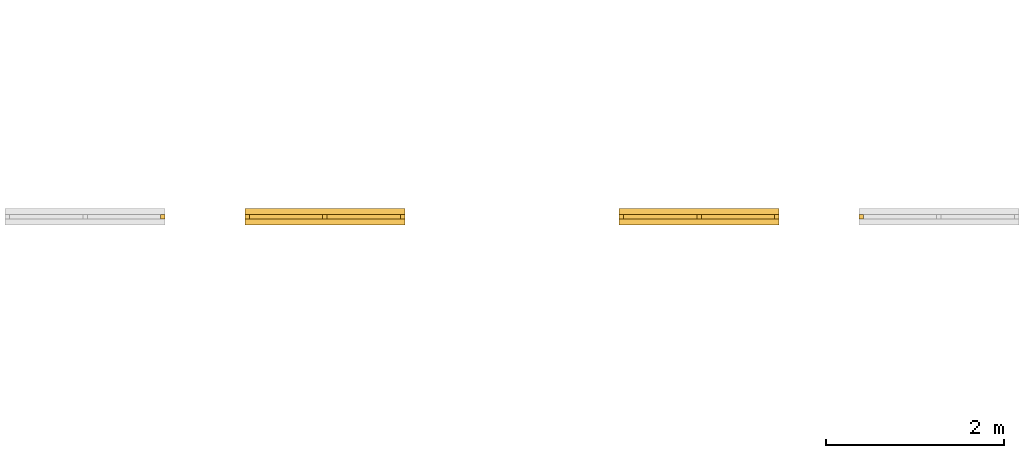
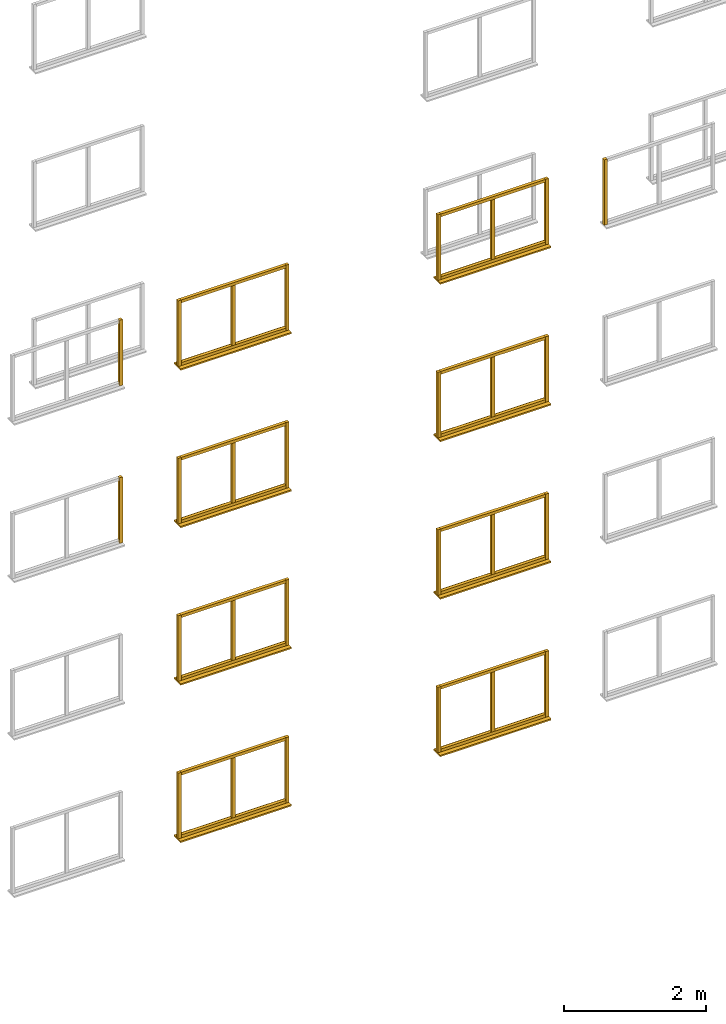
# Not in any storey, part 5 of 22: 51 windows.
"""IFC2X3 model written with IfcOpenShell, lengths in metres."""

from ifc_helpers import new_model, si_unit, frame, origin, place, context, project, faceted_brep, element, save


model = new_model("IFC2X3")

# Units and contexts
model_context = context("Model", 3, precision=1e-06, world=origin())
ifc_project = project(units=[si_unit("LENGTHUNIT", "METRE"), si_unit("PLANEANGLEUNIT", "RADIAN")], contexts=[model_context])

# Windows
placement = place(None, origin())
for number, where, z_axis, x_axis, name in (
    (1, (21.05499999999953, -0.09833720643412, 1.025), (0.0, 0.0, 1.0), (1.0, 0.0, 0.0), "leftFrame"),
    (2, (23.75499999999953, -0.09833720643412, 9.125000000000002), (0.0, 0.0, 1.0), (1.0, 0.0, 0.0), "leftFrame"),
):
    element("IfcWindow", number, at=place(placement, frame(where, z_axis=z_axis, x_axis=x_axis)), Name=name, context=model_context, shape_type="Brep", body=[
        faceted_brep([(0.0, 0.05, 0.0), (0.05, 0.05, 0.0), (0.05, 0.0, 0.0), (0.0, 0.0, 0.0), (0.05, 0.0, 1.125), (0.05, 0.05, 1.125), (0.0, 0.05, 1.125), (0.0, 0.0, 1.125), (0.0, 0.05, 0.0), (0.0, 0.0, 0.0), (0.0, 0.0, 1.125), (0.0, 0.05, 1.125), (0.05, 0.05, 0.0), (0.0, 0.05, 0.0), (0.0, 0.05, 1.125), (0.05, 0.05, 1.125), (0.05, 0.0, 0.0), (0.05, 0.05, 0.0), (0.05, 0.05, 1.125), (0.05, 0.0, 1.125), (0.0, 0.0, 0.0), (0.05, 0.0, 0.0), (0.05, 0.0, 1.125), (0.0, 0.0, 1.125)], [[[0, 1, 2, 3]], [[4, 5, 6, 7]], [[8, 9, 10, 11]], [[12, 13, 14, 15]], [[16, 17, 18, 19]], [[20, 21, 22, 23]]]),
    ])
window_1_placement = place(placement, frame((21.10499999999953, -0.09833720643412, 10.200000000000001), z_axis=(0.0, 0.0, 1.0), x_axis=(1.0, 0.0, 0.0)))
element("IfcWindow", 3, at=window_1_placement, Name="topFrame", context=model_context, shape_type="Brep", body=[
    faceted_brep([(0.0, 0.05, 0.0), (1.7, 0.05, 0.0), (1.7, 0.0, 0.0), (0.0, 0.0, 0.0), (1.7, 0.0, 0.05), (1.7, 0.05, 0.05), (0.0, 0.05, 0.05), (0.0, 0.0, 0.05), (0.0, 0.05, 0.0), (0.0, 0.0, 0.0), (0.0, 0.0, 0.05), (0.0, 0.05, 0.05), (1.7, 0.05, 0.0), (0.0, 0.05, 0.0), (0.0, 0.05, 0.05), (1.7, 0.05, 0.05), (1.7, 0.0, 0.0), (1.7, 0.05, 0.0), (1.7, 0.05, 0.05), (1.7, 0.0, 0.05), (0.0, 0.0, 0.0), (1.7, 0.0, 0.0), (1.7, 0.0, 0.05), (0.0, 0.0, 0.05)], [[[0, 1, 2, 3]], [[4, 5, 6, 7]], [[8, 9, 10, 11]], [[12, 13, 14, 15]], [[16, 17, 18, 19]], [[20, 21, 22, 23]]]),
])
window_2_placement = place(placement, frame((21.05499999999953, -0.09833720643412, 3.725000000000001), z_axis=(0.0, 0.0, 1.0), x_axis=(1.0, 0.0, 0.0)))
element("IfcWindow", 4, at=window_2_placement, Name="leftFrame", context=model_context, shape_type="Brep", body=[
    faceted_brep([(0.0, 0.05, 0.0), (0.05, 0.05, 0.0), (0.05, 0.0, 0.0), (0.0, 0.0, 0.0), (0.05, 0.0, 1.125), (0.05, 0.05, 1.125), (0.0, 0.05, 1.125), (0.0, 0.0, 1.125), (0.0, 0.05, 0.0), (0.0, 0.0, 0.0), (0.0, 0.0, 1.125), (0.0, 0.05, 1.125), (0.05, 0.05, 0.0), (0.0, 0.05, 0.0), (0.0, 0.05, 1.125), (0.05, 0.05, 1.125), (0.05, 0.0, 0.0), (0.05, 0.05, 0.0), (0.05, 0.05, 1.125), (0.05, 0.0, 1.125), (0.0, 0.0, 0.0), (0.05, 0.0, 0.0), (0.05, 0.0, 1.125), (0.0, 0.0, 1.125)], [[[0, 1, 2, 3]], [[4, 5, 6, 7]], [[8, 9, 10, 11]], [[12, 13, 14, 15]], [[16, 17, 18, 19]], [[20, 21, 22, 23]]]),
])
window_3_placement = place(placement, frame((21.92999999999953, -0.09833720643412, 9.175), z_axis=(0.0, 0.0, 1.0), x_axis=(1.0, 0.0, 0.0)))
element("IfcWindow", 5, at=window_3_placement, Name="verticalBar", context=model_context, shape_type="Brep", body=[
    faceted_brep([(0.0, 0.05, 0.0), (0.05, 0.05, 0.0), (0.05, 0.0, 0.0), (0.0, 0.0, 0.0), (0.05, 0.0, 1.025), (0.05, 0.05, 1.025), (0.0, 0.05, 1.025), (0.0, 0.0, 1.025), (0.0, 0.05, 0.0), (0.0, 0.0, 0.0), (0.0, 0.0, 1.025), (0.0, 0.05, 1.025), (0.05, 0.05, 0.0), (0.0, 0.05, 0.0), (0.0, 0.05, 1.025), (0.05, 0.05, 1.025), (0.05, 0.0, 0.0), (0.05, 0.05, 0.0), (0.05, 0.05, 1.025), (0.05, 0.0, 1.025), (0.0, 0.0, 0.0), (0.05, 0.0, 0.0), (0.05, 0.0, 1.025), (0.0, 0.0, 1.025)], [[[0, 1, 2, 3]], [[4, 5, 6, 7]], [[8, 9, 10, 11]], [[12, 13, 14, 15]], [[16, 17, 18, 19]], [[20, 21, 22, 23]]]),
])
window_4_placement = place(placement, frame((21.05499999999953, -0.16683720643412, 9.100000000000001), z_axis=(0.0, 0.0, 1.0), x_axis=(1.0, 0.0, 0.0)))
element("IfcWindow", 6, at=window_4_placement, Name="windowSill", context=model_context, shape_type="Brep", body=[
    faceted_brep([(0.0, 0.187, 0.0), (1.8, 0.187, 0.0), (1.8, 0.0, 0.0), (0.0, 0.0, 0.0), (1.8, 0.0, 0.025), (1.8, 0.187, 0.025), (0.0, 0.187, 0.025), (0.0, 0.0, 0.025), (0.0, 0.187, 0.0), (0.0, 0.0, 0.0), (0.0, 0.0, 0.025), (0.0, 0.187, 0.025), (1.8, 0.187, 0.0), (0.0, 0.187, 0.0), (0.0, 0.187, 0.025), (1.8, 0.187, 0.025), (1.8, 0.0, 0.0), (1.8, 0.187, 0.0), (1.8, 0.187, 0.025), (1.8, 0.0, 0.025), (0.0, 0.0, 0.0), (1.8, 0.0, 0.0), (1.8, 0.0, 0.025), (0.0, 0.0, 0.025)], [[[0, 1, 2, 3]], [[4, 5, 6, 7]], [[8, 9, 10, 11]], [[12, 13, 14, 15]], [[16, 17, 18, 19]], [[20, 21, 22, 23]]]),
])
window_5_placement = place(placement, frame((21.10499999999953, -0.09833720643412, 3.725000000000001), z_axis=(0.0, 0.0, 1.0), x_axis=(1.0, 0.0, 0.0)))
element("IfcWindow", 7, at=window_5_placement, Name="bottomFrame", context=model_context, shape_type="Brep", body=[
    faceted_brep([(0.0, 0.05, 0.0), (1.7, 0.05, 0.0), (1.7, 0.0, 0.0), (0.0, 0.0, 0.0), (1.7, 0.0, 0.05), (1.7, 0.05, 0.05), (0.0, 0.05, 0.05), (0.0, 0.0, 0.05), (0.0, 0.05, 0.0), (0.0, 0.0, 0.0), (0.0, 0.0, 0.05), (0.0, 0.05, 0.05), (1.7, 0.05, 0.0), (0.0, 0.05, 0.0), (0.0, 0.05, 0.05), (1.7, 0.05, 0.05), (1.7, 0.0, 0.0), (1.7, 0.05, 0.0), (1.7, 0.05, 0.05), (1.7, 0.0, 0.05), (0.0, 0.0, 0.0), (1.7, 0.0, 0.0), (1.7, 0.0, 0.05), (0.0, 0.0, 0.05)], [[[0, 1, 2, 3]], [[4, 5, 6, 7]], [[8, 9, 10, 11]], [[12, 13, 14, 15]], [[16, 17, 18, 19]], [[20, 21, 22, 23]]]),
])
window_6_placement = place(placement, frame((21.92999999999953, -0.09833720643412, 3.775000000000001), z_axis=(0.0, 0.0, 1.0), x_axis=(1.0, 0.0, 0.0)))
element("IfcWindow", 8, at=window_6_placement, Name="verticalBar", context=model_context, shape_type="Brep", body=[
    faceted_brep([(0.0, 0.05, 0.0), (0.05, 0.05, 0.0), (0.05, 0.0, 0.0), (0.0, 0.0, 0.0), (0.05, 0.0, 1.025), (0.05, 0.05, 1.025), (0.0, 0.05, 1.025), (0.0, 0.0, 1.025), (0.0, 0.05, 0.0), (0.0, 0.0, 0.0), (0.0, 0.0, 1.025), (0.0, 0.05, 1.025), (0.05, 0.05, 0.0), (0.0, 0.05, 0.0), (0.0, 0.05, 1.025), (0.05, 0.05, 1.025), (0.05, 0.0, 0.0), (0.05, 0.05, 0.0), (0.05, 0.05, 1.025), (0.05, 0.0, 1.025), (0.0, 0.0, 0.0), (0.05, 0.0, 0.0), (0.05, 0.0, 1.025), (0.0, 0.0, 1.025)], [[[0, 1, 2, 3]], [[4, 5, 6, 7]], [[8, 9, 10, 11]], [[12, 13, 14, 15]], [[16, 17, 18, 19]], [[20, 21, 22, 23]]]),
])
window_7_placement = place(placement, frame((22.80499999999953, -0.09833720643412, 3.725000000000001), z_axis=(0.0, 0.0, 1.0), x_axis=(1.0, 0.0, 0.0)))
element("IfcWindow", 9, at=window_7_placement, Name="rightFrame", context=model_context, shape_type="Brep", body=[
    faceted_brep([(0.0, 0.05, 0.0), (0.05, 0.05, 0.0), (0.05, 0.0, 0.0), (0.0, 0.0, 0.0), (0.05, 0.0, 1.125), (0.05, 0.05, 1.125), (0.0, 0.05, 1.125), (0.0, 0.0, 1.125), (0.0, 0.05, 0.0), (0.0, 0.0, 0.0), (0.0, 0.0, 1.125), (0.0, 0.05, 1.125), (0.05, 0.05, 0.0), (0.0, 0.05, 0.0), (0.0, 0.05, 1.125), (0.05, 0.05, 1.125), (0.05, 0.0, 0.0), (0.05, 0.05, 0.0), (0.05, 0.05, 1.125), (0.05, 0.0, 1.125), (0.0, 0.0, 0.0), (0.05, 0.0, 0.0), (0.05, 0.0, 1.125), (0.0, 0.0, 1.125)], [[[0, 1, 2, 3]], [[4, 5, 6, 7]], [[8, 9, 10, 11]], [[12, 13, 14, 15]], [[16, 17, 18, 19]], [[20, 21, 22, 23]]]),
])
window_8_placement = place(placement, frame((21.10499999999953, -0.09833720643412, 4.800000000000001), z_axis=(0.0, 0.0, 1.0), x_axis=(1.0, 0.0, 0.0)))
element("IfcWindow", 10, at=window_8_placement, Name="topFrame", context=model_context, shape_type="Brep", body=[
    faceted_brep([(0.0, 0.05, 0.0), (1.7, 0.05, 0.0), (1.7, 0.0, 0.0), (0.0, 0.0, 0.0), (1.7, 0.0, 0.05), (1.7, 0.05, 0.05), (0.0, 0.05, 0.05), (0.0, 0.0, 0.05), (0.0, 0.05, 0.0), (0.0, 0.0, 0.0), (0.0, 0.0, 0.05), (0.0, 0.05, 0.05), (1.7, 0.05, 0.0), (0.0, 0.05, 0.0), (0.0, 0.05, 0.05), (1.7, 0.05, 0.05), (1.7, 0.0, 0.0), (1.7, 0.05, 0.0), (1.7, 0.05, 0.05), (1.7, 0.0, 0.05), (0.0, 0.0, 0.0), (1.7, 0.0, 0.0), (1.7, 0.0, 0.05), (0.0, 0.0, 0.05)], [[[0, 1, 2, 3]], [[4, 5, 6, 7]], [[8, 9, 10, 11]], [[12, 13, 14, 15]], [[16, 17, 18, 19]], [[20, 21, 22, 23]]]),
])
for number, where, z_axis, x_axis, name in (
    (11, (21.05499999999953, -0.16683720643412, 3.700000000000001), (0.0, 0.0, 1.0), (1.0, 0.0, 0.0), "windowSill"),
    (12, (21.05499999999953, -0.16683720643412, 1.0), (0.0, 0.0, 1.0), (1.0, 0.0, 0.0), "windowSill"),
):
    element("IfcWindow", number, at=place(placement, frame(where, z_axis=z_axis, x_axis=x_axis)), Name=name, context=model_context, shape_type="Brep", body=[
        faceted_brep([(0.0, 0.187, 0.0), (1.8, 0.187, 0.0), (1.8, 0.0, 0.0), (0.0, 0.0, 0.0), (1.8, 0.0, 0.025), (1.8, 0.187, 0.025), (0.0, 0.187, 0.025), (0.0, 0.0, 0.025), (0.0, 0.187, 0.0), (0.0, 0.0, 0.0), (0.0, 0.0, 0.025), (0.0, 0.187, 0.025), (1.8, 0.187, 0.0), (0.0, 0.187, 0.0), (0.0, 0.187, 0.025), (1.8, 0.187, 0.025), (1.8, 0.0, 0.0), (1.8, 0.187, 0.0), (1.8, 0.187, 0.025), (1.8, 0.0, 0.025), (0.0, 0.0, 0.0), (1.8, 0.0, 0.0), (1.8, 0.0, 0.025), (0.0, 0.0, 0.025)], [[[0, 1, 2, 3]], [[4, 5, 6, 7]], [[8, 9, 10, 11]], [[12, 13, 14, 15]], [[16, 17, 18, 19]], [[20, 21, 22, 23]]]),
    ])
window_9_placement = place(placement, frame((22.80499999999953, -0.09833720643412, 1.025), z_axis=(0.0, 0.0, 1.0), x_axis=(1.0, 0.0, 0.0)))
element("IfcWindow", 13, at=window_9_placement, Name="rightFrame", context=model_context, shape_type="Brep", body=[
    faceted_brep([(0.0, 0.05, 0.0), (0.05, 0.05, 0.0), (0.05, 0.0, 0.0), (0.0, 0.0, 0.0), (0.05, 0.0, 1.125), (0.05, 0.05, 1.125), (0.0, 0.05, 1.125), (0.0, 0.0, 1.125), (0.0, 0.05, 0.0), (0.0, 0.0, 0.0), (0.0, 0.0, 1.125), (0.0, 0.05, 1.125), (0.05, 0.05, 0.0), (0.0, 0.05, 0.0), (0.0, 0.05, 1.125), (0.05, 0.05, 1.125), (0.05, 0.0, 0.0), (0.05, 0.05, 0.0), (0.05, 0.05, 1.125), (0.05, 0.0, 1.125), (0.0, 0.0, 0.0), (0.05, 0.0, 0.0), (0.05, 0.0, 1.125), (0.0, 0.0, 1.125)], [[[0, 1, 2, 3]], [[4, 5, 6, 7]], [[8, 9, 10, 11]], [[12, 13, 14, 15]], [[16, 17, 18, 19]], [[20, 21, 22, 23]]]),
])
window_10_placement = place(placement, frame((21.92999999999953, -0.09833720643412, 1.075), z_axis=(0.0, 0.0, 1.0), x_axis=(1.0, 0.0, 0.0)))
element("IfcWindow", 14, at=window_10_placement, Name="verticalBar", context=model_context, shape_type="Brep", body=[
    faceted_brep([(0.0, 0.05, 0.0), (0.05, 0.05, 0.0), (0.05, 0.0, 0.0), (0.0, 0.0, 0.0), (0.05, 0.0, 1.025), (0.05, 0.05, 1.025), (0.0, 0.05, 1.025), (0.0, 0.0, 1.025), (0.0, 0.05, 0.0), (0.0, 0.0, 0.0), (0.0, 0.0, 1.025), (0.0, 0.05, 1.025), (0.05, 0.05, 0.0), (0.0, 0.05, 0.0), (0.0, 0.05, 1.025), (0.05, 0.05, 1.025), (0.05, 0.0, 0.0), (0.05, 0.05, 0.0), (0.05, 0.05, 1.025), (0.05, 0.0, 1.025), (0.0, 0.0, 0.0), (0.05, 0.0, 0.0), (0.05, 0.0, 1.025), (0.0, 0.0, 1.025)], [[[0, 1, 2, 3]], [[4, 5, 6, 7]], [[8, 9, 10, 11]], [[12, 13, 14, 15]], [[16, 17, 18, 19]], [[20, 21, 22, 23]]]),
])
for number, where, z_axis, x_axis, name in (
    (15, (21.10499999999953, -0.09833720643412, 2.100000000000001), (0.0, 0.0, 1.0), (1.0, 0.0, 0.0), "topFrame"),
    (16, (21.10499999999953, -0.09833720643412, 1.025), (0.0, 0.0, 1.0), (1.0, 0.0, 0.0), "bottomFrame"),
    (17, (16.894999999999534, -0.098337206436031, 1.025), (0.0, 0.0, 1.0), (1.0, 0.0, 0.0), "bottomFrame"),
    (18, (16.894999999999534, -0.098337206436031, 2.1), (0.0, 0.0, 1.0), (1.0, 0.0, 0.0), "topFrame"),
):
    element("IfcWindow", number, at=place(placement, frame(where, z_axis=z_axis, x_axis=x_axis)), Name=name, context=model_context, shape_type="Brep", body=[
        faceted_brep([(0.0, 0.05, 0.0), (1.7, 0.05, 0.0), (1.7, 0.0, 0.0), (0.0, 0.0, 0.0), (1.7, 0.0, 0.05), (1.7, 0.05, 0.05), (0.0, 0.05, 0.05), (0.0, 0.0, 0.05), (0.0, 0.05, 0.0), (0.0, 0.0, 0.0), (0.0, 0.0, 0.05), (0.0, 0.05, 0.05), (1.7, 0.05, 0.0), (0.0, 0.05, 0.0), (0.0, 0.05, 0.05), (1.7, 0.05, 0.05), (1.7, 0.0, 0.0), (1.7, 0.05, 0.0), (1.7, 0.05, 0.05), (1.7, 0.0, 0.05), (0.0, 0.0, 0.0), (1.7, 0.0, 0.0), (1.7, 0.0, 0.05), (0.0, 0.0, 0.05)], [[[0, 1, 2, 3]], [[4, 5, 6, 7]], [[8, 9, 10, 11]], [[12, 13, 14, 15]], [[16, 17, 18, 19]], [[20, 21, 22, 23]]]),
    ])
for number, where, z_axis, x_axis, name in (
    (19, (16.844999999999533, -0.098337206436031, 1.025), (0.0, 0.0, 1.0), (1.0, 0.0, 0.0), "leftFrame"),
    (20, (18.594999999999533, -0.098337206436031, 1.025), (0.0, 0.0, 1.0), (1.0, 0.0, 0.0), "rightFrame"),
):
    element("IfcWindow", number, at=place(placement, frame(where, z_axis=z_axis, x_axis=x_axis)), Name=name, context=model_context, shape_type="Brep", body=[
        faceted_brep([(0.0, 0.05, 0.0), (0.05, 0.05, 0.0), (0.05, 0.0, 0.0), (0.0, 0.0, 0.0), (0.05, 0.0, 1.125), (0.05, 0.05, 1.125), (0.0, 0.05, 1.125), (0.0, 0.0, 1.125), (0.0, 0.05, 0.0), (0.0, 0.0, 0.0), (0.0, 0.0, 1.125), (0.0, 0.05, 1.125), (0.05, 0.05, 0.0), (0.0, 0.05, 0.0), (0.0, 0.05, 1.125), (0.05, 0.05, 1.125), (0.05, 0.0, 0.0), (0.05, 0.05, 0.0), (0.05, 0.05, 1.125), (0.05, 0.0, 1.125), (0.0, 0.0, 0.0), (0.05, 0.0, 0.0), (0.05, 0.0, 1.125), (0.0, 0.0, 1.125)], [[[0, 1, 2, 3]], [[4, 5, 6, 7]], [[8, 9, 10, 11]], [[12, 13, 14, 15]], [[16, 17, 18, 19]], [[20, 21, 22, 23]]]),
    ])
window_11_placement = place(placement, frame((16.844999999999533, -0.166837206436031, 1.0), z_axis=(0.0, 0.0, 1.0), x_axis=(1.0, 0.0, 0.0)))
element("IfcWindow", 21, at=window_11_placement, Name="windowSill", context=model_context, shape_type="Brep", body=[
    faceted_brep([(0.0, 0.187, 0.0), (1.8, 0.187, 0.0), (1.8, 0.0, 0.0), (0.0, 0.0, 0.0), (1.8, 0.0, 0.025), (1.8, 0.187, 0.025), (0.0, 0.187, 0.025), (0.0, 0.0, 0.025), (0.0, 0.187, 0.0), (0.0, 0.0, 0.0), (0.0, 0.0, 0.025), (0.0, 0.187, 0.025), (1.8, 0.187, 0.0), (0.0, 0.187, 0.0), (0.0, 0.187, 0.025), (1.8, 0.187, 0.025), (1.8, 0.0, 0.0), (1.8, 0.187, 0.0), (1.8, 0.187, 0.025), (1.8, 0.0, 0.025), (0.0, 0.0, 0.0), (1.8, 0.0, 0.0), (1.8, 0.0, 0.025), (0.0, 0.0, 0.025)], [[[0, 1, 2, 3]], [[4, 5, 6, 7]], [[8, 9, 10, 11]], [[12, 13, 14, 15]], [[16, 17, 18, 19]], [[20, 21, 22, 23]]]),
])
window_12_placement = place(placement, frame((17.719999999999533, -0.098337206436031, 1.075), z_axis=(0.0, 0.0, 1.0), x_axis=(1.0, 0.0, 0.0)))
element("IfcWindow", 22, at=window_12_placement, Name="verticalBar", context=model_context, shape_type="Brep", body=[
    faceted_brep([(0.0, 0.05, 0.0), (0.05, 0.05, 0.0), (0.05, 0.0, 0.0), (0.0, 0.0, 0.0), (0.05, 0.0, 1.025), (0.05, 0.05, 1.025), (0.0, 0.05, 1.025), (0.0, 0.0, 1.025), (0.0, 0.05, 0.0), (0.0, 0.0, 0.0), (0.0, 0.0, 1.025), (0.0, 0.05, 1.025), (0.05, 0.05, 0.0), (0.0, 0.05, 0.0), (0.0, 0.05, 1.025), (0.05, 0.05, 1.025), (0.05, 0.0, 0.0), (0.05, 0.05, 0.0), (0.05, 0.05, 1.025), (0.05, 0.0, 1.025), (0.0, 0.0, 0.0), (0.05, 0.0, 0.0), (0.05, 0.0, 1.025), (0.0, 0.0, 1.025)], [[[0, 1, 2, 3]], [[4, 5, 6, 7]], [[8, 9, 10, 11]], [[12, 13, 14, 15]], [[16, 17, 18, 19]], [[20, 21, 22, 23]]]),
])
for number, where, z_axis, x_axis, name in (
    (23, (16.894999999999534, -0.098337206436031, 3.725), (0.0, 0.0, 1.0), (1.0, 0.0, 0.0), "bottomFrame"),
    (24, (16.894999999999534, -0.098337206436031, 4.8), (0.0, 0.0, 1.0), (1.0, 0.0, 0.0), "topFrame"),
):
    element("IfcWindow", number, at=place(placement, frame(where, z_axis=z_axis, x_axis=x_axis)), Name=name, context=model_context, shape_type="Brep", body=[
        faceted_brep([(0.0, 0.05, 0.0), (1.7, 0.05, 0.0), (1.7, 0.0, 0.0), (0.0, 0.0, 0.0), (1.7, 0.0, 0.05), (1.7, 0.05, 0.05), (0.0, 0.05, 0.05), (0.0, 0.0, 0.05), (0.0, 0.05, 0.0), (0.0, 0.0, 0.0), (0.0, 0.0, 0.05), (0.0, 0.05, 0.05), (1.7, 0.05, 0.0), (0.0, 0.05, 0.0), (0.0, 0.05, 0.05), (1.7, 0.05, 0.05), (1.7, 0.0, 0.0), (1.7, 0.05, 0.0), (1.7, 0.05, 0.05), (1.7, 0.0, 0.05), (0.0, 0.0, 0.0), (1.7, 0.0, 0.0), (1.7, 0.0, 0.05), (0.0, 0.0, 0.05)], [[[0, 1, 2, 3]], [[4, 5, 6, 7]], [[8, 9, 10, 11]], [[12, 13, 14, 15]], [[16, 17, 18, 19]], [[20, 21, 22, 23]]]),
    ])
for number, where, z_axis, x_axis, name in (
    (25, (16.844999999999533, -0.098337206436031, 3.725), (0.0, 0.0, 1.0), (1.0, 0.0, 0.0), "leftFrame"),
    (26, (18.594999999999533, -0.098337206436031, 3.725), (0.0, 0.0, 1.0), (1.0, 0.0, 0.0), "rightFrame"),
):
    element("IfcWindow", number, at=place(placement, frame(where, z_axis=z_axis, x_axis=x_axis)), Name=name, context=model_context, shape_type="Brep", body=[
        faceted_brep([(0.0, 0.05, 0.0), (0.05, 0.05, 0.0), (0.05, 0.0, 0.0), (0.0, 0.0, 0.0), (0.05, 0.0, 1.125), (0.05, 0.05, 1.125), (0.0, 0.05, 1.125), (0.0, 0.0, 1.125), (0.0, 0.05, 0.0), (0.0, 0.0, 0.0), (0.0, 0.0, 1.125), (0.0, 0.05, 1.125), (0.05, 0.05, 0.0), (0.0, 0.05, 0.0), (0.0, 0.05, 1.125), (0.05, 0.05, 1.125), (0.05, 0.0, 0.0), (0.05, 0.05, 0.0), (0.05, 0.05, 1.125), (0.05, 0.0, 1.125), (0.0, 0.0, 0.0), (0.05, 0.0, 0.0), (0.05, 0.0, 1.125), (0.0, 0.0, 1.125)], [[[0, 1, 2, 3]], [[4, 5, 6, 7]], [[8, 9, 10, 11]], [[12, 13, 14, 15]], [[16, 17, 18, 19]], [[20, 21, 22, 23]]]),
    ])
window_13_placement = place(placement, frame((16.844999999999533, -0.166837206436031, 3.7), z_axis=(0.0, 0.0, 1.0), x_axis=(1.0, 0.0, 0.0)))
element("IfcWindow", 27, at=window_13_placement, Name="windowSill", context=model_context, shape_type="Brep", body=[
    faceted_brep([(0.0, 0.187, 0.0), (1.8, 0.187, 0.0), (1.8, 0.0, 0.0), (0.0, 0.0, 0.0), (1.8, 0.0, 0.025), (1.8, 0.187, 0.025), (0.0, 0.187, 0.025), (0.0, 0.0, 0.025), (0.0, 0.187, 0.0), (0.0, 0.0, 0.0), (0.0, 0.0, 0.025), (0.0, 0.187, 0.025), (1.8, 0.187, 0.0), (0.0, 0.187, 0.0), (0.0, 0.187, 0.025), (1.8, 0.187, 0.025), (1.8, 0.0, 0.0), (1.8, 0.187, 0.0), (1.8, 0.187, 0.025), (1.8, 0.0, 0.025), (0.0, 0.0, 0.0), (1.8, 0.0, 0.0), (1.8, 0.0, 0.025), (0.0, 0.0, 0.025)], [[[0, 1, 2, 3]], [[4, 5, 6, 7]], [[8, 9, 10, 11]], [[12, 13, 14, 15]], [[16, 17, 18, 19]], [[20, 21, 22, 23]]]),
])
window_14_placement = place(placement, frame((16.844999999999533, -0.098337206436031, 6.425000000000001), z_axis=(0.0, 0.0, 1.0), x_axis=(1.0, 0.0, 0.0)))
element("IfcWindow", 28, at=window_14_placement, Name="leftFrame", context=model_context, shape_type="Brep", body=[
    faceted_brep([(0.0, 0.05, 0.0), (0.05, 0.05, 0.0), (0.05, 0.0, 0.0), (0.0, 0.0, 0.0), (0.05, 0.0, 1.125), (0.05, 0.05, 1.125), (0.0, 0.05, 1.125), (0.0, 0.0, 1.125), (0.0, 0.05, 0.0), (0.0, 0.0, 0.0), (0.0, 0.0, 1.125), (0.0, 0.05, 1.125), (0.05, 0.05, 0.0), (0.0, 0.05, 0.0), (0.0, 0.05, 1.125), (0.05, 0.05, 1.125), (0.05, 0.0, 0.0), (0.05, 0.05, 0.0), (0.05, 0.05, 1.125), (0.05, 0.0, 1.125), (0.0, 0.0, 0.0), (0.05, 0.0, 0.0), (0.05, 0.0, 1.125), (0.0, 0.0, 1.125)], [[[0, 1, 2, 3]], [[4, 5, 6, 7]], [[8, 9, 10, 11]], [[12, 13, 14, 15]], [[16, 17, 18, 19]], [[20, 21, 22, 23]]]),
])
for number, where, z_axis, x_axis, name in (
    (29, (16.894999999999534, -0.098337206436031, 7.5), (0.0, 0.0, 1.0), (1.0, 0.0, 0.0), "topFrame"),
    (30, (16.894999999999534, -0.098337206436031, 6.425000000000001), (0.0, 0.0, 1.0), (1.0, 0.0, 0.0), "bottomFrame"),
):
    element("IfcWindow", number, at=place(placement, frame(where, z_axis=z_axis, x_axis=x_axis)), Name=name, context=model_context, shape_type="Brep", body=[
        faceted_brep([(0.0, 0.05, 0.0), (1.7, 0.05, 0.0), (1.7, 0.0, 0.0), (0.0, 0.0, 0.0), (1.7, 0.0, 0.05), (1.7, 0.05, 0.05), (0.0, 0.05, 0.05), (0.0, 0.0, 0.05), (0.0, 0.05, 0.0), (0.0, 0.0, 0.0), (0.0, 0.0, 0.05), (0.0, 0.05, 0.05), (1.7, 0.05, 0.0), (0.0, 0.05, 0.0), (0.0, 0.05, 0.05), (1.7, 0.05, 0.05), (1.7, 0.0, 0.0), (1.7, 0.05, 0.0), (1.7, 0.05, 0.05), (1.7, 0.0, 0.05), (0.0, 0.0, 0.0), (1.7, 0.0, 0.0), (1.7, 0.0, 0.05), (0.0, 0.0, 0.05)], [[[0, 1, 2, 3]], [[4, 5, 6, 7]], [[8, 9, 10, 11]], [[12, 13, 14, 15]], [[16, 17, 18, 19]], [[20, 21, 22, 23]]]),
    ])
window_15_placement = place(placement, frame((21.05499999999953, -0.16683720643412, 6.400000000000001), z_axis=(0.0, 0.0, 1.0), x_axis=(1.0, 0.0, 0.0)))
element("IfcWindow", 31, at=window_15_placement, Name="windowSill", context=model_context, shape_type="Brep", body=[
    faceted_brep([(0.0, 0.187, 0.0), (1.8, 0.187, 0.0), (1.8, 0.0, 0.0), (0.0, 0.0, 0.0), (1.8, 0.0, 0.025), (1.8, 0.187, 0.025), (0.0, 0.187, 0.025), (0.0, 0.0, 0.025), (0.0, 0.187, 0.0), (0.0, 0.0, 0.0), (0.0, 0.0, 0.025), (0.0, 0.187, 0.025), (1.8, 0.187, 0.0), (0.0, 0.187, 0.0), (0.0, 0.187, 0.025), (1.8, 0.187, 0.025), (1.8, 0.0, 0.0), (1.8, 0.187, 0.0), (1.8, 0.187, 0.025), (1.8, 0.0, 0.025), (0.0, 0.0, 0.0), (1.8, 0.0, 0.0), (1.8, 0.0, 0.025), (0.0, 0.0, 0.025)], [[[0, 1, 2, 3]], [[4, 5, 6, 7]], [[8, 9, 10, 11]], [[12, 13, 14, 15]], [[16, 17, 18, 19]], [[20, 21, 22, 23]]]),
])
window_16_placement = place(placement, frame((21.10499999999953, -0.09833720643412, 7.500000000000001), z_axis=(0.0, 0.0, 1.0), x_axis=(1.0, 0.0, 0.0)))
element("IfcWindow", 32, at=window_16_placement, Name="topFrame", context=model_context, shape_type="Brep", body=[
    faceted_brep([(0.0, 0.05, 0.0), (1.7, 0.05, 0.0), (1.7, 0.0, 0.0), (0.0, 0.0, 0.0), (1.7, 0.0, 0.05), (1.7, 0.05, 0.05), (0.0, 0.05, 0.05), (0.0, 0.0, 0.05), (0.0, 0.05, 0.0), (0.0, 0.0, 0.0), (0.0, 0.0, 0.05), (0.0, 0.05, 0.05), (1.7, 0.05, 0.0), (0.0, 0.05, 0.0), (0.0, 0.05, 0.05), (1.7, 0.05, 0.05), (1.7, 0.0, 0.0), (1.7, 0.05, 0.0), (1.7, 0.05, 0.05), (1.7, 0.0, 0.05), (0.0, 0.0, 0.0), (1.7, 0.0, 0.0), (1.7, 0.0, 0.05), (0.0, 0.0, 0.05)], [[[0, 1, 2, 3]], [[4, 5, 6, 7]], [[8, 9, 10, 11]], [[12, 13, 14, 15]], [[16, 17, 18, 19]], [[20, 21, 22, 23]]]),
])
window_17_placement = place(placement, frame((21.92999999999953, -0.09833720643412, 6.475000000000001), z_axis=(0.0, 0.0, 1.0), x_axis=(1.0, 0.0, 0.0)))
element("IfcWindow", 33, at=window_17_placement, Name="verticalBar", context=model_context, shape_type="Brep", body=[
    faceted_brep([(0.0, 0.05, 0.0), (0.05, 0.05, 0.0), (0.05, 0.0, 0.0), (0.0, 0.0, 0.0), (0.05, 0.0, 1.025), (0.05, 0.05, 1.025), (0.0, 0.05, 1.025), (0.0, 0.0, 1.025), (0.0, 0.05, 0.0), (0.0, 0.0, 0.0), (0.0, 0.0, 1.025), (0.0, 0.05, 1.025), (0.05, 0.05, 0.0), (0.0, 0.05, 0.0), (0.0, 0.05, 1.025), (0.05, 0.05, 1.025), (0.05, 0.0, 0.0), (0.05, 0.05, 0.0), (0.05, 0.05, 1.025), (0.05, 0.0, 1.025), (0.0, 0.0, 0.0), (0.05, 0.0, 0.0), (0.05, 0.0, 1.025), (0.0, 0.0, 1.025)], [[[0, 1, 2, 3]], [[4, 5, 6, 7]], [[8, 9, 10, 11]], [[12, 13, 14, 15]], [[16, 17, 18, 19]], [[20, 21, 22, 23]]]),
])
window_18_placement = place(placement, frame((21.10499999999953, -0.09833720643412, 6.425000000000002), z_axis=(0.0, 0.0, 1.0), x_axis=(1.0, 0.0, 0.0)))
element("IfcWindow", 34, at=window_18_placement, Name="bottomFrame", context=model_context, shape_type="Brep", body=[
    faceted_brep([(0.0, 0.05, 0.0), (1.7, 0.05, 0.0), (1.7, 0.0, 0.0), (0.0, 0.0, 0.0), (1.7, 0.0, 0.05), (1.7, 0.05, 0.05), (0.0, 0.05, 0.05), (0.0, 0.0, 0.05), (0.0, 0.05, 0.0), (0.0, 0.0, 0.0), (0.0, 0.0, 0.05), (0.0, 0.05, 0.05), (1.7, 0.05, 0.0), (0.0, 0.05, 0.0), (0.0, 0.05, 0.05), (1.7, 0.05, 0.05), (1.7, 0.0, 0.0), (1.7, 0.05, 0.0), (1.7, 0.05, 0.05), (1.7, 0.0, 0.05), (0.0, 0.0, 0.0), (1.7, 0.0, 0.0), (1.7, 0.0, 0.05), (0.0, 0.0, 0.05)], [[[0, 1, 2, 3]], [[4, 5, 6, 7]], [[8, 9, 10, 11]], [[12, 13, 14, 15]], [[16, 17, 18, 19]], [[20, 21, 22, 23]]]),
])
window_19_placement = place(placement, frame((15.894999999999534, -0.098337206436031, 9.125000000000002), z_axis=(0.0, 0.0, 1.0), x_axis=(1.0, 0.0, 0.0)))
element("IfcWindow", 35, at=window_19_placement, Name="rightFrame", context=model_context, shape_type="Brep", body=[
    faceted_brep([(0.0, 0.05, 0.0), (0.05, 0.05, 0.0), (0.05, 0.0, 0.0), (0.0, 0.0, 0.0), (0.05, 0.0, 1.125), (0.05, 0.05, 1.125), (0.0, 0.05, 1.125), (0.0, 0.0, 1.125), (0.0, 0.05, 0.0), (0.0, 0.0, 0.0), (0.0, 0.0, 1.125), (0.0, 0.05, 1.125), (0.05, 0.05, 0.0), (0.0, 0.05, 0.0), (0.0, 0.05, 1.125), (0.05, 0.05, 1.125), (0.05, 0.0, 0.0), (0.05, 0.05, 0.0), (0.05, 0.05, 1.125), (0.05, 0.0, 1.125), (0.0, 0.0, 0.0), (0.05, 0.0, 0.0), (0.05, 0.0, 1.125), (0.0, 0.0, 1.125)], [[[0, 1, 2, 3]], [[4, 5, 6, 7]], [[8, 9, 10, 11]], [[12, 13, 14, 15]], [[16, 17, 18, 19]], [[20, 21, 22, 23]]]),
])
for number, where, z_axis, x_axis, name in (
    (36, (16.894999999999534, -0.098337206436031, 9.125000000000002), (0.0, 0.0, 1.0), (1.0, 0.0, 0.0), "bottomFrame"),
    (37, (16.894999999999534, -0.098337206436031, 10.200000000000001), (0.0, 0.0, 1.0), (1.0, 0.0, 0.0), "topFrame"),
):
    element("IfcWindow", number, at=place(placement, frame(where, z_axis=z_axis, x_axis=x_axis)), Name=name, context=model_context, shape_type="Brep", body=[
        faceted_brep([(0.0, 0.05, 0.0), (1.7, 0.05, 0.0), (1.7, 0.0, 0.0), (0.0, 0.0, 0.0), (1.7, 0.0, 0.05), (1.7, 0.05, 0.05), (0.0, 0.05, 0.05), (0.0, 0.0, 0.05), (0.0, 0.05, 0.0), (0.0, 0.0, 0.0), (0.0, 0.0, 0.05), (0.0, 0.05, 0.05), (1.7, 0.05, 0.0), (0.0, 0.05, 0.0), (0.0, 0.05, 0.05), (1.7, 0.05, 0.05), (1.7, 0.0, 0.0), (1.7, 0.05, 0.0), (1.7, 0.05, 0.05), (1.7, 0.0, 0.05), (0.0, 0.0, 0.0), (1.7, 0.0, 0.0), (1.7, 0.0, 0.05), (0.0, 0.0, 0.05)], [[[0, 1, 2, 3]], [[4, 5, 6, 7]], [[8, 9, 10, 11]], [[12, 13, 14, 15]], [[16, 17, 18, 19]], [[20, 21, 22, 23]]]),
    ])
window_20_placement = place(placement, frame((18.594999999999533, -0.098337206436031, 9.125000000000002), z_axis=(0.0, 0.0, 1.0), x_axis=(1.0, 0.0, 0.0)))
element("IfcWindow", 38, at=window_20_placement, Name="rightFrame", context=model_context, shape_type="Brep", body=[
    faceted_brep([(0.0, 0.05, 0.0), (0.05, 0.05, 0.0), (0.05, 0.0, 0.0), (0.0, 0.0, 0.0), (0.05, 0.0, 1.125), (0.05, 0.05, 1.125), (0.0, 0.05, 1.125), (0.0, 0.0, 1.125), (0.0, 0.05, 0.0), (0.0, 0.0, 0.0), (0.0, 0.0, 1.125), (0.0, 0.05, 1.125), (0.05, 0.05, 0.0), (0.0, 0.05, 0.0), (0.0, 0.05, 1.125), (0.05, 0.05, 1.125), (0.05, 0.0, 0.0), (0.05, 0.05, 0.0), (0.05, 0.05, 1.125), (0.05, 0.0, 1.125), (0.0, 0.0, 0.0), (0.05, 0.0, 0.0), (0.05, 0.0, 1.125), (0.0, 0.0, 1.125)], [[[0, 1, 2, 3]], [[4, 5, 6, 7]], [[8, 9, 10, 11]], [[12, 13, 14, 15]], [[16, 17, 18, 19]], [[20, 21, 22, 23]]]),
])
window_21_placement = place(placement, frame((16.844999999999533, -0.166837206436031, 9.100000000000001), z_axis=(0.0, 0.0, 1.0), x_axis=(1.0, 0.0, 0.0)))
element("IfcWindow", 39, at=window_21_placement, Name="windowSill", context=model_context, shape_type="Brep", body=[
    faceted_brep([(0.0, 0.187, 0.0), (1.8, 0.187, 0.0), (1.8, 0.0, 0.0), (0.0, 0.0, 0.0), (1.8, 0.0, 0.025), (1.8, 0.187, 0.025), (0.0, 0.187, 0.025), (0.0, 0.0, 0.025), (0.0, 0.187, 0.0), (0.0, 0.0, 0.0), (0.0, 0.0, 0.025), (0.0, 0.187, 0.025), (1.8, 0.187, 0.0), (0.0, 0.187, 0.0), (0.0, 0.187, 0.025), (1.8, 0.187, 0.025), (1.8, 0.0, 0.0), (1.8, 0.187, 0.0), (1.8, 0.187, 0.025), (1.8, 0.0, 0.025), (0.0, 0.0, 0.0), (1.8, 0.0, 0.0), (1.8, 0.0, 0.025), (0.0, 0.0, 0.025)], [[[0, 1, 2, 3]], [[4, 5, 6, 7]], [[8, 9, 10, 11]], [[12, 13, 14, 15]], [[16, 17, 18, 19]], [[20, 21, 22, 23]]]),
])
window_22_placement = place(placement, frame((16.844999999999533, -0.098337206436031, 9.125000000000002), z_axis=(0.0, 0.0, 1.0), x_axis=(1.0, 0.0, 0.0)))
element("IfcWindow", 40, at=window_22_placement, Name="leftFrame", context=model_context, shape_type="Brep", body=[
    faceted_brep([(0.0, 0.05, 0.0), (0.05, 0.05, 0.0), (0.05, 0.0, 0.0), (0.0, 0.0, 0.0), (0.05, 0.0, 1.125), (0.05, 0.05, 1.125), (0.0, 0.05, 1.125), (0.0, 0.0, 1.125), (0.0, 0.05, 0.0), (0.0, 0.0, 0.0), (0.0, 0.0, 1.125), (0.0, 0.05, 1.125), (0.05, 0.05, 0.0), (0.0, 0.05, 0.0), (0.0, 0.05, 1.125), (0.05, 0.05, 1.125), (0.05, 0.0, 0.0), (0.05, 0.05, 0.0), (0.05, 0.05, 1.125), (0.05, 0.0, 1.125), (0.0, 0.0, 0.0), (0.05, 0.0, 0.0), (0.05, 0.0, 1.125), (0.0, 0.0, 1.125)], [[[0, 1, 2, 3]], [[4, 5, 6, 7]], [[8, 9, 10, 11]], [[12, 13, 14, 15]], [[16, 17, 18, 19]], [[20, 21, 22, 23]]]),
])
window_23_placement = place(placement, frame((17.719999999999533, -0.098337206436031, 9.175), z_axis=(0.0, 0.0, 1.0), x_axis=(1.0, 0.0, 0.0)))
element("IfcWindow", 41, at=window_23_placement, Name="verticalBar", context=model_context, shape_type="Brep", body=[
    faceted_brep([(0.0, 0.05, 0.0), (0.05, 0.05, 0.0), (0.05, 0.0, 0.0), (0.0, 0.0, 0.0), (0.05, 0.0, 1.025), (0.05, 0.05, 1.025), (0.0, 0.05, 1.025), (0.0, 0.0, 1.025), (0.0, 0.05, 0.0), (0.0, 0.0, 0.0), (0.0, 0.0, 1.025), (0.0, 0.05, 1.025), (0.05, 0.05, 0.0), (0.0, 0.05, 0.0), (0.0, 0.05, 1.025), (0.05, 0.05, 1.025), (0.05, 0.0, 0.0), (0.05, 0.05, 0.0), (0.05, 0.05, 1.025), (0.05, 0.0, 1.025), (0.0, 0.0, 0.0), (0.05, 0.0, 0.0), (0.05, 0.0, 1.025), (0.0, 0.0, 1.025)], [[[0, 1, 2, 3]], [[4, 5, 6, 7]], [[8, 9, 10, 11]], [[12, 13, 14, 15]], [[16, 17, 18, 19]], [[20, 21, 22, 23]]]),
])
for number, where, z_axis, x_axis, name in (
    (42, (21.05499999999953, -0.09833720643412, 9.125000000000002), (0.0, 0.0, 1.0), (1.0, 0.0, 0.0), "leftFrame"),
    (43, (22.80499999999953, -0.09833720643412, 9.125000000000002), (0.0, 0.0, 1.0), (1.0, 0.0, 0.0), "rightFrame"),
):
    element("IfcWindow", number, at=place(placement, frame(where, z_axis=z_axis, x_axis=x_axis)), Name=name, context=model_context, shape_type="Brep", body=[
        faceted_brep([(0.0, 0.05, 0.0), (0.05, 0.05, 0.0), (0.05, 0.0, 0.0), (0.0, 0.0, 0.0), (0.05, 0.0, 1.125), (0.05, 0.05, 1.125), (0.0, 0.05, 1.125), (0.0, 0.0, 1.125), (0.0, 0.05, 0.0), (0.0, 0.0, 0.0), (0.0, 0.0, 1.125), (0.0, 0.05, 1.125), (0.05, 0.05, 0.0), (0.0, 0.05, 0.0), (0.0, 0.05, 1.125), (0.05, 0.05, 1.125), (0.05, 0.0, 0.0), (0.05, 0.05, 0.0), (0.05, 0.05, 1.125), (0.05, 0.0, 1.125), (0.0, 0.0, 0.0), (0.05, 0.0, 0.0), (0.05, 0.0, 1.125), (0.0, 0.0, 1.125)], [[[0, 1, 2, 3]], [[4, 5, 6, 7]], [[8, 9, 10, 11]], [[12, 13, 14, 15]], [[16, 17, 18, 19]], [[20, 21, 22, 23]]]),
    ])
window_24_placement = place(placement, frame((21.10499999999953, -0.09833720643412, 9.125000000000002), z_axis=(0.0, 0.0, 1.0), x_axis=(1.0, 0.0, 0.0)))
element("IfcWindow", 44, at=window_24_placement, Name="bottomFrame", context=model_context, shape_type="Brep", body=[
    faceted_brep([(0.0, 0.05, 0.0), (1.7, 0.05, 0.0), (1.7, 0.0, 0.0), (0.0, 0.0, 0.0), (1.7, 0.0, 0.05), (1.7, 0.05, 0.05), (0.0, 0.05, 0.05), (0.0, 0.0, 0.05), (0.0, 0.05, 0.0), (0.0, 0.0, 0.0), (0.0, 0.0, 0.05), (0.0, 0.05, 0.05), (1.7, 0.05, 0.0), (0.0, 0.05, 0.0), (0.0, 0.05, 0.05), (1.7, 0.05, 0.05), (1.7, 0.0, 0.0), (1.7, 0.05, 0.0), (1.7, 0.05, 0.05), (1.7, 0.0, 0.05), (0.0, 0.0, 0.0), (1.7, 0.0, 0.0), (1.7, 0.0, 0.05), (0.0, 0.0, 0.05)], [[[0, 1, 2, 3]], [[4, 5, 6, 7]], [[8, 9, 10, 11]], [[12, 13, 14, 15]], [[16, 17, 18, 19]], [[20, 21, 22, 23]]]),
])
window_25_placement = place(placement, frame((17.719999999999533, -0.098337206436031, 3.775), z_axis=(0.0, 0.0, 1.0), x_axis=(1.0, 0.0, 0.0)))
element("IfcWindow", 45, at=window_25_placement, Name="verticalBar", context=model_context, shape_type="Brep", body=[
    faceted_brep([(0.0, 0.05, 0.0), (0.05, 0.05, 0.0), (0.05, 0.0, 0.0), (0.0, 0.0, 0.0), (0.05, 0.0, 1.025), (0.05, 0.05, 1.025), (0.0, 0.05, 1.025), (0.0, 0.0, 1.025), (0.0, 0.05, 0.0), (0.0, 0.0, 0.0), (0.0, 0.0, 1.025), (0.0, 0.05, 1.025), (0.05, 0.05, 0.0), (0.0, 0.05, 0.0), (0.0, 0.05, 1.025), (0.05, 0.05, 1.025), (0.05, 0.0, 0.0), (0.05, 0.05, 0.0), (0.05, 0.05, 1.025), (0.05, 0.0, 1.025), (0.0, 0.0, 0.0), (0.05, 0.0, 0.0), (0.05, 0.0, 1.025), (0.0, 0.0, 1.025)], [[[0, 1, 2, 3]], [[4, 5, 6, 7]], [[8, 9, 10, 11]], [[12, 13, 14, 15]], [[16, 17, 18, 19]], [[20, 21, 22, 23]]]),
])
window_26_placement = place(placement, frame((15.894999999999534, -0.098337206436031, 6.425000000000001), z_axis=(0.0, 0.0, 1.0), x_axis=(1.0, 0.0, 0.0)))
element("IfcWindow", 46, at=window_26_placement, Name="rightFrame", context=model_context, shape_type="Brep", body=[
    faceted_brep([(0.0, 0.05, 0.0), (0.05, 0.05, 0.0), (0.05, 0.0, 0.0), (0.0, 0.0, 0.0), (0.05, 0.0, 1.125), (0.05, 0.05, 1.125), (0.0, 0.05, 1.125), (0.0, 0.0, 1.125), (0.0, 0.05, 0.0), (0.0, 0.0, 0.0), (0.0, 0.0, 1.125), (0.0, 0.05, 1.125), (0.05, 0.05, 0.0), (0.0, 0.05, 0.0), (0.0, 0.05, 1.125), (0.05, 0.05, 1.125), (0.05, 0.0, 0.0), (0.05, 0.05, 0.0), (0.05, 0.05, 1.125), (0.05, 0.0, 1.125), (0.0, 0.0, 0.0), (0.05, 0.0, 0.0), (0.05, 0.0, 1.125), (0.0, 0.0, 1.125)], [[[0, 1, 2, 3]], [[4, 5, 6, 7]], [[8, 9, 10, 11]], [[12, 13, 14, 15]], [[16, 17, 18, 19]], [[20, 21, 22, 23]]]),
])
window_27_placement = place(placement, frame((17.719999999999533, -0.098337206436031, 6.475000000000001), z_axis=(0.0, 0.0, 1.0), x_axis=(1.0, 0.0, 0.0)))
element("IfcWindow", 47, at=window_27_placement, Name="verticalBar", context=model_context, shape_type="Brep", body=[
    faceted_brep([(0.0, 0.05, 0.0), (0.05, 0.05, 0.0), (0.05, 0.0, 0.0), (0.0, 0.0, 0.0), (0.05, 0.0, 1.025), (0.05, 0.05, 1.025), (0.0, 0.05, 1.025), (0.0, 0.0, 1.025), (0.0, 0.05, 0.0), (0.0, 0.0, 0.0), (0.0, 0.0, 1.025), (0.0, 0.05, 1.025), (0.05, 0.05, 0.0), (0.0, 0.05, 0.0), (0.0, 0.05, 1.025), (0.05, 0.05, 1.025), (0.05, 0.0, 0.0), (0.05, 0.05, 0.0), (0.05, 0.05, 1.025), (0.05, 0.0, 1.025), (0.0, 0.0, 0.0), (0.05, 0.0, 0.0), (0.05, 0.0, 1.025), (0.0, 0.0, 1.025)], [[[0, 1, 2, 3]], [[4, 5, 6, 7]], [[8, 9, 10, 11]], [[12, 13, 14, 15]], [[16, 17, 18, 19]], [[20, 21, 22, 23]]]),
])
window_28_placement = place(placement, frame((16.844999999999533, -0.166837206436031, 6.4), z_axis=(0.0, 0.0, 1.0), x_axis=(1.0, 0.0, 0.0)))
element("IfcWindow", 48, at=window_28_placement, Name="windowSill", context=model_context, shape_type="Brep", body=[
    faceted_brep([(0.0, 0.187, 0.0), (1.8, 0.187, 0.0), (1.8, 0.0, 0.0), (0.0, 0.0, 0.0), (1.8, 0.0, 0.025), (1.8, 0.187, 0.025), (0.0, 0.187, 0.025), (0.0, 0.0, 0.025), (0.0, 0.187, 0.0), (0.0, 0.0, 0.0), (0.0, 0.0, 0.025), (0.0, 0.187, 0.025), (1.8, 0.187, 0.0), (0.0, 0.187, 0.0), (0.0, 0.187, 0.025), (1.8, 0.187, 0.025), (1.8, 0.0, 0.0), (1.8, 0.187, 0.0), (1.8, 0.187, 0.025), (1.8, 0.0, 0.025), (0.0, 0.0, 0.0), (1.8, 0.0, 0.0), (1.8, 0.0, 0.025), (0.0, 0.0, 0.025)], [[[0, 1, 2, 3]], [[4, 5, 6, 7]], [[8, 9, 10, 11]], [[12, 13, 14, 15]], [[16, 17, 18, 19]], [[20, 21, 22, 23]]]),
])
for number, where, z_axis, x_axis, name in (
    (49, (18.594999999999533, -0.098337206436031, 6.425000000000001), (0.0, 0.0, 1.0), (1.0, 0.0, 0.0), "rightFrame"),
    (50, (22.80499999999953, -0.09833720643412, 6.425000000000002), (0.0, 0.0, 1.0), (1.0, 0.0, 0.0), "rightFrame"),
    (51, (21.05499999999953, -0.09833720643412, 6.425000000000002), (0.0, 0.0, 1.0), (1.0, 0.0, 0.0), "leftFrame"),
):
    element("IfcWindow", number, at=place(placement, frame(where, z_axis=z_axis, x_axis=x_axis)), Name=name, context=model_context, shape_type="Brep", body=[
        faceted_brep([(0.0, 0.05, 0.0), (0.05, 0.05, 0.0), (0.05, 0.0, 0.0), (0.0, 0.0, 0.0), (0.05, 0.0, 1.125), (0.05, 0.05, 1.125), (0.0, 0.05, 1.125), (0.0, 0.0, 1.125), (0.0, 0.05, 0.0), (0.0, 0.0, 0.0), (0.0, 0.0, 1.125), (0.0, 0.05, 1.125), (0.05, 0.05, 0.0), (0.0, 0.05, 0.0), (0.0, 0.05, 1.125), (0.05, 0.05, 1.125), (0.05, 0.0, 0.0), (0.05, 0.05, 0.0), (0.05, 0.05, 1.125), (0.05, 0.0, 1.125), (0.0, 0.0, 0.0), (0.05, 0.0, 0.0), (0.05, 0.0, 1.125), (0.0, 0.0, 1.125)], [[[0, 1, 2, 3]], [[4, 5, 6, 7]], [[8, 9, 10, 11]], [[12, 13, 14, 15]], [[16, 17, 18, 19]], [[20, 21, 22, 23]]]),
    ])

save(model, "model.ifc")
